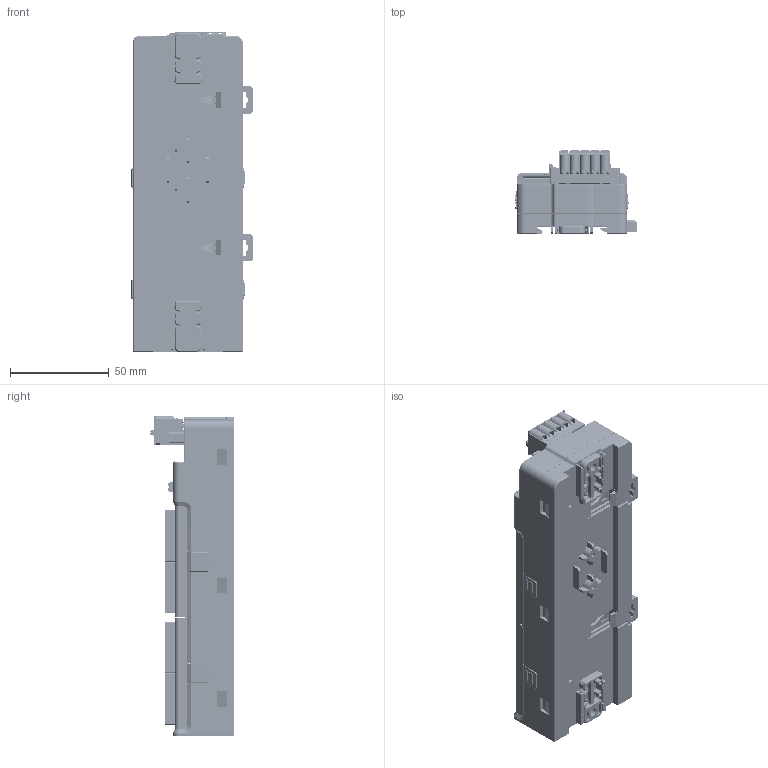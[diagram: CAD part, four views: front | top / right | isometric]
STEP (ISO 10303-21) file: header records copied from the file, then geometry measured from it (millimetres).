
FILE_DESCRIPTION(/* description */ (''),/* implementation_level */ '2;1');
FILE_NAME(/* name */ 'RS-长款-econ.stp',/* time_stamp */ '2024-06-20T17:41:17+08:00',/* author */ (''),/* organization */ (''),/* preprocessor_version */ 'ST-DEVELOPER v16',/* originating_system */ 'SIEMENS PLM Software NX 10.0',/* authorisation */ '');
FILE_SCHEMA (('AP203_CONFIGURATION_CONTROLLED_3D_DESIGN_OF_MECHANICAL_PARTS_AND_ASSEMBLIES_MIM_LF { 1 0 10303 403 2 1 2}'));
Products named in the file (1): chao3F38959Cct8k
Bounding box: 61.81 x 42.7 x 162.53 mm (x, y, z)
Volume: 229886.3 mm3; surface area: 128515.7 mm2
Topology: 40 solids, 187 shells, 15135 faces, 39640 edges, 25502 vertices
Faces by surface type: plane 11665, cylinder 2123, cone 585, bspline 463, torus 161, extrusion 84, sphere 50, revolution 4
Full cylindrical faces by diameter (mm): 0.6 x4, 0.76 x6, 0.8 x13, 0.9 x1, 0.92 x18, 1 x1, 1.1 x2, 1.2 x25, 1.24 x16, 1.26 x3, 1.36 x24, 1.5 x5, 1.64 x20, 1.7 x4, 2.35 x2, 2.5 x2, 2.8 x5, 3.2 x3, 3.3 x3, 4.2 x2, 6.05 x3, 6.15 x3
Entity records: 472598 total; most frequent: CARTESIAN_POINT 102301, ORIENTED_EDGE 78122, DIRECTION 72631, EDGE_CURVE 39141, VECTOR 31767, LINE 31683, VERTEX_POINT 25431, AXIS2_PLACEMENT_3D 20430
